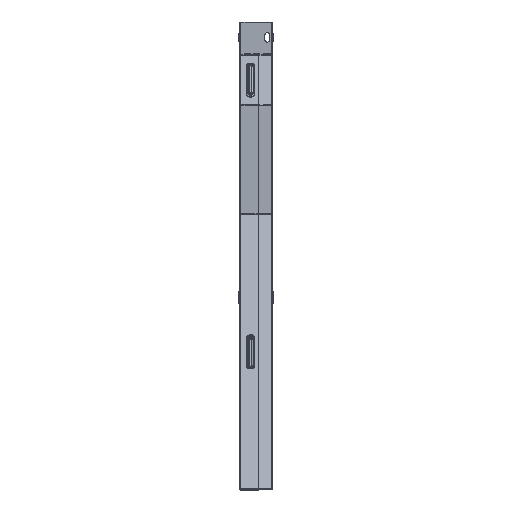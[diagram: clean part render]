
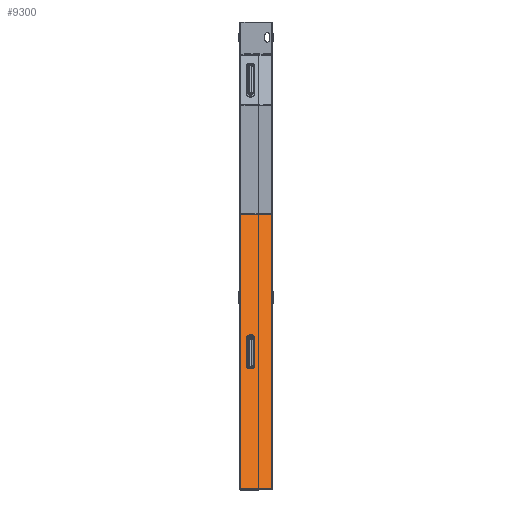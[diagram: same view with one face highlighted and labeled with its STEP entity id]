
A CAD part, left-side view. The second image highlights one B-rep face of the part: STEP entity #9300.
In plain terms, the highlighted planar face has unit normal (-0.707, 0, 0.707).
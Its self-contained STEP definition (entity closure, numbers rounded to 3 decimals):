
#21 = ORIENTED_EDGE ( 'NONE', *, *, #17215, .F. ) ;
#134 = VECTOR ( 'NONE', #343, 1000. ) ;
#343 = DIRECTION ( 'NONE',  ( 0., 1., 0. ) ) ;
#727 = CARTESIAN_POINT ( 'NONE',  ( 128.221, 40.017, -170.648 ) ) ;
#1084 = AXIS2_PLACEMENT_3D ( 'NONE', #17032, #12595, #8481 ) ;
#1178 = EDGE_CURVE ( 'NONE', #6294, #11866, #2546, .T. ) ;
#1749 = VERTEX_POINT ( 'NONE', #3750 ) ;
#2485 = ORIENTED_EDGE ( 'NONE', *, *, #1178, .F. ) ;
#2546 = LINE ( 'NONE', #10994, #11970 ) ;
#2674 = CARTESIAN_POINT ( 'NONE',  ( -65.255, 0., -364.123 ) ) ;
#3545 = CARTESIAN_POINT ( 'NONE',  ( 128.221, 33.1, -170.648 ) ) ;
#3643 = AXIS2_PLACEMENT_3D ( 'NONE', #5159, #17833, #3979 ) ;
#3672 = DIRECTION ( 'NONE',  ( 0., 1., 0. ) ) ;
#3750 = CARTESIAN_POINT ( 'NONE',  ( 128.221, 26.183, -170.648 ) ) ;
#3942 = VECTOR ( 'NONE', #12614, 1000. ) ;
#3979 = DIRECTION ( 'NONE',  ( 0.707, 0., 0.707 ) ) ;
#4211 = CIRCLE ( 'NONE', #1084, 6.917 ) ;
#4682 = LINE ( 'NONE', #2674, #14146 ) ;
#5159 = CARTESIAN_POINT ( 'NONE',  ( 149.434, 0., -149.434 ) ) ;
#5307 = CARTESIAN_POINT ( 'NONE',  ( 364.123, 48.2, 65.255 ) ) ;
#5415 = DIRECTION ( 'NONE',  ( -0.707, 0., -0.707 ) ) ;
#5461 = CARTESIAN_POINT ( 'NONE',  ( 364.434, 48.2, 65.566 ) ) ;
#5517 = DIRECTION ( 'NONE',  ( 0.707, 0., 0.707 ) ) ;
#5553 = LINE ( 'NONE', #5461, #16554 ) ;
#5815 = CARTESIAN_POINT ( 'NONE',  ( -65.255, 1., -364.123 ) ) ;
#6007 = CARTESIAN_POINT ( 'NONE',  ( 364.123, 0., 65.255 ) ) ;
#6090 = EDGE_CURVE ( 'NONE', #16774, #10454, #11352, .T. ) ;
#6294 = VERTEX_POINT ( 'NONE', #6997 ) ;
#6539 = DIRECTION ( 'NONE',  ( -0.707, 0., -0.707 ) ) ;
#6653 = CARTESIAN_POINT ( 'NONE',  ( 364.434, 1., 65.566 ) ) ;
#6889 = CIRCLE ( 'NONE', #7051, 6.917 ) ;
#6997 = CARTESIAN_POINT ( 'NONE',  ( 170.648, 40.017, -128.221 ) ) ;
#7051 = AXIS2_PLACEMENT_3D ( 'NONE', #3545, #9180, #3672 ) ;
#7346 = EDGE_LOOP ( 'NONE', ( #11171, #12058, #12639, #21 ) ) ;
#7418 = LINE ( 'NONE', #16818, #3942 ) ;
#8073 = EDGE_CURVE ( 'NONE', #11866, #1749, #6889, .T. ) ;
#8481 = DIRECTION ( 'NONE',  ( 0., 1., 0. ) ) ;
#8539 = EDGE_CURVE ( 'NONE', #16774, #16693, #13650, .T. ) ;
#8886 = FACE_BOUND ( 'NONE', #17700, .T. ) ;
#9180 = DIRECTION ( 'NONE',  ( -0.707, 0., 0.707 ) ) ;
#9224 = VECTOR ( 'NONE', #6539, 1000. ) ;
#9300 = ADVANCED_FACE ( 'NONE', ( #8886, #11308 ), #9461, .T. ) ;
#9461 = PLANE ( 'NONE',  #3643 ) ;
#9969 = VERTEX_POINT ( 'NONE', #14745 ) ;
#10454 = VERTEX_POINT ( 'NONE', #5307 ) ;
#10994 = CARTESIAN_POINT ( 'NONE',  ( 149.434, 40.017, -149.434 ) ) ;
#11171 = ORIENTED_EDGE ( 'NONE', *, *, #8539, .F. ) ;
#11234 = EDGE_CURVE ( 'NONE', #9969, #10454, #5553, .T. ) ;
#11308 = FACE_OUTER_BOUND ( 'NONE', #7346, .T. ) ;
#11352 = LINE ( 'NONE', #6007, #134 ) ;
#11866 = VERTEX_POINT ( 'NONE', #727 ) ;
#11970 = VECTOR ( 'NONE', #5415, 1000. ) ;
#11997 = EDGE_CURVE ( 'NONE', #17119, #6294, #4211, .T. ) ;
#12058 = ORIENTED_EDGE ( 'NONE', *, *, #6090, .T. ) ;
#12493 = ORIENTED_EDGE ( 'NONE', *, *, #13418, .F. ) ;
#12595 = DIRECTION ( 'NONE',  ( -0.707, 0., 0.707 ) ) ;
#12614 = DIRECTION ( 'NONE',  ( 0.707, 0., 0.707 ) ) ;
#12639 = ORIENTED_EDGE ( 'NONE', *, *, #11234, .F. ) ;
#13418 = EDGE_CURVE ( 'NONE', #1749, #17119, #7418, .T. ) ;
#13650 = LINE ( 'NONE', #6653, #9224 ) ;
#13657 = ORIENTED_EDGE ( 'NONE', *, *, #8073, .F. ) ;
#14146 = VECTOR ( 'NONE', #18145, 1000. ) ;
#14745 = CARTESIAN_POINT ( 'NONE',  ( -65.255, 48.2, -364.123 ) ) ;
#15326 = ORIENTED_EDGE ( 'NONE', *, *, #11997, .F. ) ;
#15436 = CARTESIAN_POINT ( 'NONE',  ( 170.648, 26.183, -128.221 ) ) ;
#16554 = VECTOR ( 'NONE', #5517, 1000. ) ;
#16693 = VERTEX_POINT ( 'NONE', #5815 ) ;
#16774 = VERTEX_POINT ( 'NONE', #17190 ) ;
#16818 = CARTESIAN_POINT ( 'NONE',  ( 149.434, 26.183, -149.434 ) ) ;
#17032 = CARTESIAN_POINT ( 'NONE',  ( 170.648, 33.1, -128.221 ) ) ;
#17119 = VERTEX_POINT ( 'NONE', #15436 ) ;
#17190 = CARTESIAN_POINT ( 'NONE',  ( 364.123, 1., 65.255 ) ) ;
#17215 = EDGE_CURVE ( 'NONE', #16693, #9969, #4682, .T. ) ;
#17700 = EDGE_LOOP ( 'NONE', ( #13657, #2485, #15326, #12493 ) ) ;
#17833 = DIRECTION ( 'NONE',  ( -0.707, 0., 0.707 ) ) ;
#18145 = DIRECTION ( 'NONE',  ( 0., 1., 0. ) ) ;
